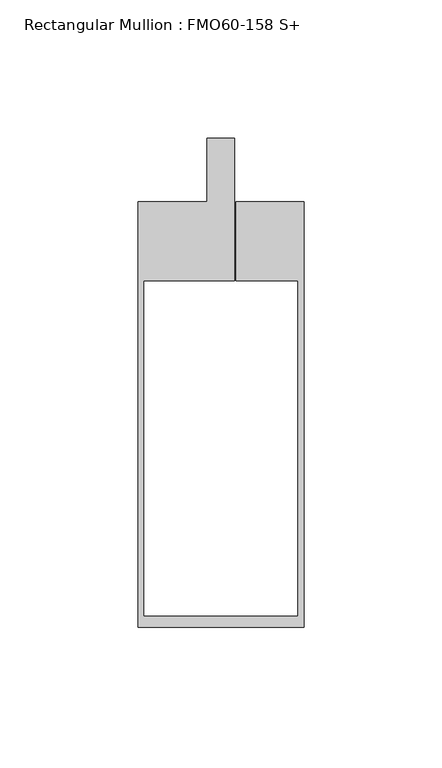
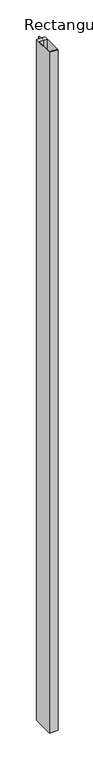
"""IFC4 building model written with IfcOpenShell, lengths in millimetres: member geometry, Rectangular Mullion : FMO60-158 S+."""

import ifcopenshell
import ifcopenshell.guid

model = None  # the IFC model being written
_history = None  # IfcOwnerHistory: only IFC2X3 demands one
_inside = {}  # id of a spatial element -> (the spatial element, [elements in it])
_under = {}  # id of a project, library or spatial element -> (it, [spatial elements below it])
_declared = {}  # id of a project -> (the project, [libraries it declares])
_typed = {}  # id of a type object -> (the type object, [elements of that type])
_made_of = {}  # id of a material, layer set ... -> (it, [elements and type objects made of it])


def new_model(schema):
    """Start an empty IFC model of exactly this schema.

    Asked for "IFC4X3", IfcOpenShell would pick the latest addendum, in which some entities
    have other attributes; the version numbers below select the first issue.
    IFC2X3 requires an IfcOwnerHistory on every rooted entity: one is made here for all.
    """
    global model, _history
    if schema == "IFC4X3":
        model = ifcopenshell.file(schema_version=(4, 3, 0, 0))
    else:
        model = ifcopenshell.file(schema=schema)
    _inside.clear()
    _under.clear()
    _declared.clear()
    _typed.clear()
    _made_of.clear()
    _history = None
    if model.schema == "IFC2X3":
        org = make("IfcOrganization", Name="unknown")
        user = make(
            "IfcPersonAndOrganization",
            ThePerson=make("IfcPerson", FamilyName="unknown"),
            TheOrganization=org,
        )
        app = make(
            "IfcApplication",
            ApplicationDeveloper=org,
            Version="unknown",
            ApplicationFullName="unknown",
            ApplicationIdentifier="unknown",
        )
        _history = make(
            "IfcOwnerHistory",
            OwningUser=user,
            OwningApplication=app,
            ChangeAction="ADDED",
            CreationDate=0,
        )
    return model


def make(cls, **values):
    """One entity of the class cls with the attributes given. An attribute that is None is left unset."""
    return model.create_entity(
        cls, **{name: value for name, value in values.items() if value is not None}
    )


def rooted(cls, **values):
    """An entity with a GlobalId (a new one), such as an element, a storey or a relation."""
    return make(cls, GlobalId=ifcopenshell.guid.new(), OwnerHistory=_history, **values)


def si_unit(unit_type, name, prefix=None):
    """IfcSIUnit, for example si_unit("LENGTHUNIT", "METRE", prefix="MILLI")."""
    return make("IfcSIUnit", UnitType=unit_type, Prefix=prefix, Name=name)


def assignment(units):
    """IfcUnitAssignment: the units of a project."""
    return None if units is None else make("IfcUnitAssignment", Units=units)


def point(xyz):
    """IfcCartesianPoint."""
    return None if xyz is None else make("IfcCartesianPoint", Coordinates=xyz)


def direction(xyz):
    """IfcDirection."""
    return None if xyz is None else make("IfcDirection", DirectionRatios=xyz)


def frame(location, z_axis=None, x_axis=None):
    """IfcAxis2Placement3D, a coordinate frame: its origin and axes. An axis left out is left unset."""
    return make(
        "IfcAxis2Placement3D",
        Location=point(location),
        Axis=direction(z_axis),
        RefDirection=direction(x_axis),
    )


def origin():
    """The frame at (0, 0, 0) with its axes left unset."""
    return frame((0.0, 0.0, 0.0))


def place(relative_to, where):
    """IfcLocalPlacement: puts the frame where relative to a parent placement (None: the world)."""
    return make(
        "IfcLocalPlacement", PlacementRelTo=relative_to, RelativePlacement=where
    )


def context(
    kind, dimensions, precision=None, world=None, true_north=None, identifier=None
):
    """IfcGeometricRepresentationContext, for example the 3D "Model" context."""
    return make(
        "IfcGeometricRepresentationContext",
        ContextIdentifier=identifier,
        ContextType=kind,
        CoordinateSpaceDimension=dimensions,
        Precision=precision,
        WorldCoordinateSystem=world,
        TrueNorth=true_north,
    )


def project(units=None, contexts=None):
    """IfcProject with its units and contexts."""
    return rooted(
        "IfcProject",
        Name="project",
        RepresentationContexts=contexts,
        UnitsInContext=assignment(units),
    )


def spatial(cls, under=None, at=None, **own):
    """A site, building, storey or space (cls), placed at a placement, below another one or the project."""
    s = rooted(cls, ObjectPlacement=at, **own)
    if under is not None:
        _under.setdefault(under.id(), (under, []))[1].append(s)
    return s


def faces_of(points, faces, orient=None, outer=None):
    """IfcFace entities. A face is a list of loops; a loop is a list of indices into points, from 0.

    orient and outer hold one flag for each loop. By default every Orientation is true, the
    first loop of a face is its IfcFaceOuterBound and the others are IfcFaceBound.
    """
    made = []
    for i, loops in enumerate(faces):
        bounds = []
        for j, loop in enumerate(loops):
            is_outer = j == 0 if outer is None else outer[i][j]
            bounds.append(
                make(
                    "IfcFaceOuterBound" if is_outer else "IfcFaceBound",
                    Bound=make("IfcPolyLoop", Polygon=[points[k] for k in loop]),
                    Orientation=True if orient is None else orient[i][j],
                )
            )
        made.append(make("IfcFace", Bounds=bounds))
    return made


def faceted_brep(points, faces, orient=None, outer=None, voids=None):
    """IfcFacetedBrep: a solid bounded by flat faces; with voids (closed shells), ...WithVoids."""
    shared = [point(p) for p in points]
    hull = make("IfcClosedShell", CfsFaces=faces_of(shared, faces, orient, outer))
    if voids is None:
        return make("IfcFacetedBrep", Outer=hull)
    return make(
        "IfcFacetedBrepWithVoids",
        Outer=hull,
        Voids=[
            make(cls, CfsFaces=faces_of(shared, fs, o, b)) for cls, fs, o, b in voids
        ],
    )


def shape(context_of_items, identifier, shape_type, items):
    """IfcShapeRepresentation: the items that make up one representation, for example the "Body"."""
    return make(
        "IfcShapeRepresentation",
        ContextOfItems=context_of_items,
        RepresentationIdentifier=identifier,
        RepresentationType=shape_type,
        Items=items,
    )


def source(mapping_origin, context_of_items, identifier, shape_type, items):
    """IfcRepresentationMap: a shape defined once, which mapped items show again and again."""
    return make(
        "IfcRepresentationMap",
        MappingOrigin=mapping_origin,
        MappedRepresentation=shape(context_of_items, identifier, shape_type, items),
    )


def transform(
    local_origin,
    x_axis=None,
    y_axis=None,
    z_axis=None,
    scale=None,
    scale2=None,
    scale3=None,
    uniform=True,
):
    """IfcCartesianTransformationOperator3D, or its non-uniform kind. x_axis, y_axis, z_axis: its Axis1, 2, 3."""
    if uniform:
        return make(
            "IfcCartesianTransformationOperator3D",
            Axis1=direction(x_axis),
            Axis2=direction(y_axis),
            LocalOrigin=point(local_origin),
            Scale=scale,
            Axis3=direction(z_axis),
        )
    return make(
        "IfcCartesianTransformationOperator3DnonUniform",
        Axis1=direction(x_axis),
        Axis2=direction(y_axis),
        LocalOrigin=point(local_origin),
        Scale=scale,
        Axis3=direction(z_axis),
        Scale2=scale2,
        Scale3=scale3,
    )


def mapped(mapping_source, mapping_target):
    """IfcMappedItem: shows the shape of a source again, moved by a transform."""
    return make(
        "IfcMappedItem", MappingSource=mapping_source, MappingTarget=mapping_target
    )


def made_of(thing, what):
    """Note that an element or type object is made of a material, layer set ...; save() writes the relation."""
    if what is not None:
        _made_of.setdefault(what.id(), (what, []))[1].append(thing)
    return thing


def element(
    cls,
    number,
    at=None,
    inside=None,
    cuts=None,
    type_object=None,
    material=None,
    context=None,
    identifier="Body",
    shape_type=None,
    held_by="IfcProductDefinitionShape",
    body=None,
    shapes=None,
    **own,
):
    """One element of the class cls, such as IfcWall. Its Tag is "e" and its number.

    at: its placement. inside: the storey or other place that contains it. cuts: it is an
    opening in that element (IfcRelVoidsElement). A single representation is given by context,
    identifier, shape_type and body (its items); several are given by shapes. held_by: the class
    of the entity that holds the representations. save() writes the other relations.
    """
    e = rooted(cls, Tag="e%d" % number, ObjectPlacement=at, **own)
    if body is not None:
        shapes = [shape(context, identifier, shape_type, body)]
    if shapes is not None:
        e.Representation = make(held_by, Representations=shapes)
    if inside is not None:
        _inside.setdefault(inside.id(), (inside, []))[1].append(e)
    if cuts is not None:
        rooted(
            "IfcRelVoidsElement", RelatingBuildingElement=cuts, RelatedOpeningElement=e
        )
    if type_object is not None:
        _typed.setdefault(type_object.id(), (type_object, []))[1].append(e)
    return made_of(e, material)


def aggregate(whole, parts):
    """IfcRelAggregates: a whole, such as a stair, and the parts it consists of."""
    return rooted("IfcRelAggregates", RelatingObject=whole, RelatedObjects=parts)


def save(model, path):
    """Write the relations noted so far, then the file.

    IfcRelAggregates (storeys below a building ...), IfcRelContainedInSpatialStructure (elements
    in a storey), IfcRelDefinesByType, IfcRelAssociatesMaterial and IfcRelDeclares: one each for
    every whole, place, type object, material and project.
    """
    for whole, parts in _under.values():
        aggregate(whole, parts)
    for where, things in _inside.values():
        rooted(
            "IfcRelContainedInSpatialStructure",
            RelatedElements=things,
            RelatingStructure=where,
        )
    for kind, things in _typed.values():
        rooted("IfcRelDefinesByType", RelatedObjects=things, RelatingType=kind)
    for what, things in _made_of.values():
        rooted("IfcRelAssociatesMaterial", RelatedObjects=things, RelatingMaterial=what)
    for by, libraries in _declared.values():
        rooted("IfcRelDeclares", RelatingContext=by, RelatedDefinitions=libraries)
    model.write(path)


def rectangular_mullion_fmo60_158_s_52347238(model_context):
    return source(origin(), model_context, "Body", "Brep", [
        faceted_brep([(-4.993115, 0.1997627, 0.0), (-29.9893758, 0.1997627, 0.0), (-29.9893758, -153.8047151, 0.0), (30.006885, -153.8047151, 0.0), (30.006885, 0.1997627, 0.0), (5.5066074, 0.1997627, 0.0), (5.5066074, -28.3016373, 0.0), (28.006885, -28.3016373, 0.0), (28.006885, -149.8047151, 0.0), (-27.993115, -149.8047151, 0.0), (-27.993115, -28.3016373, 0.0), (5.0066074, -28.3016373, 0.0), (5.0066074, 23.1912589, 0.0), (-4.993115, 23.1912493, 0.0), (-4.993115, 0.1997627, -5000.0), (-4.993115, 23.1912493, -5000.0), (5.0066074, 23.1912493, -5000.0), (5.0066074, -28.3016373, -5000.0), (-27.993115, -28.3016373, -5000.0), (-27.993115, -149.8047151, -5000.0), (28.006885, -149.8047151, -5000.0), (28.006885, -28.3016373, -5000.0), (5.5066074, -28.3016373, -5000.0), (5.5066074, 0.1997627, -5000.0), (30.006885, 0.1997627, -5000.0), (30.006885, -153.8047151, -5000.0), (-29.9893758, -153.8047151, -5000.0), (-29.9893758, 0.1997627, -5000.0)], [[[0, 1, 2, 3, 4, 5, 6, 7, 8, 9, 10, 11, 12, 13]], [[14, 15, 16, 17, 18, 19, 20, 21, 22, 23, 24, 25, 26, 27]], [[0, 13, 15, 14]], [[1, 0, 14, 27]], [[2, 1, 27, 26]], [[3, 2, 26, 25]], [[4, 3, 25, 24]], [[5, 4, 24, 23]], [[6, 5, 23, 22]], [[7, 6, 22, 21]], [[8, 7, 21, 20]], [[9, 8, 20, 19]], [[10, 9, 19, 18]], [[11, 10, 18, 17]], [[12, 11, 17, 16]], [[13, 12, 16, 15]]]),
    ])


if __name__ == "__main__":
    model = new_model("IFC4")
    model_context = context("Model", 3, world=origin())
    ifc_project = project(units=[si_unit("LENGTHUNIT", "METRE", prefix="MILLI")], contexts=[model_context])
    site = spatial("IfcSite", under=ifc_project)
    building = spatial("IfcBuilding", under=site)
    placement = place(None, origin())
    rectangular_mullion_fmo60_158_s_shape = rectangular_mullion_fmo60_158_s_52347238(model_context)
    element("IfcMember", 1, ObjectType="Rectangular Mullion : FMO60-158 S+", at=placement, inside=building, context=model_context, shape_type="MappedRepresentation", body=[
        mapped(rectangular_mullion_fmo60_158_s_shape, transform((0.0, 0.0, 0.0), x_axis=(1.0, 0.0, 0.0), y_axis=(0.0, 1.0, 0.0), z_axis=(0.0, 0.0, 1.0))),
    ])
    save(model, "model.ifc")
